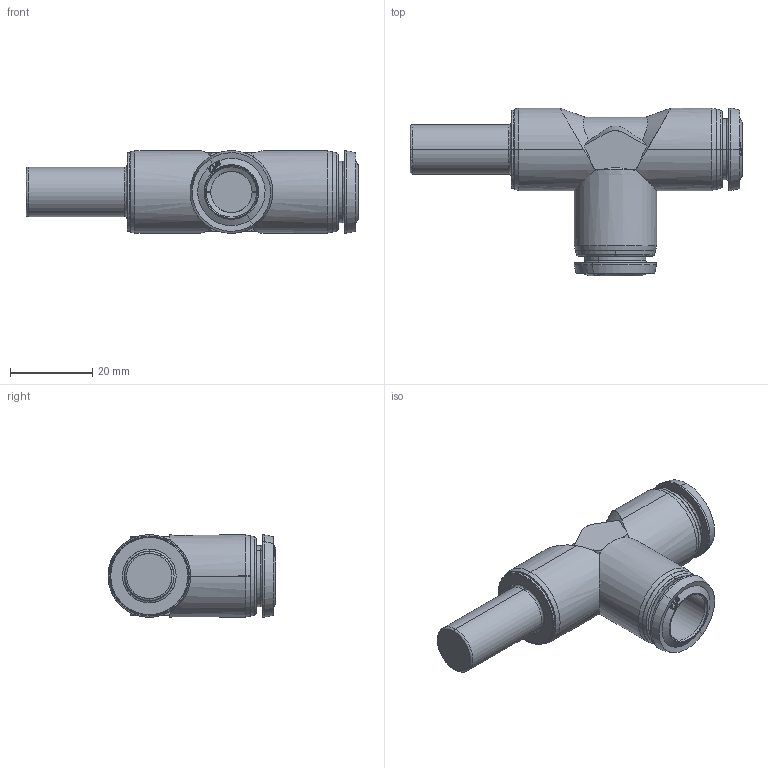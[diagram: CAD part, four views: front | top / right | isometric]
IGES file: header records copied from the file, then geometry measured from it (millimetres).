
Start section: SolidWorks IGES file using analytic representation for surfaces
Global section: file name: \\192.168.0.114\Utecnico\Disegni\Disegni Esecutivi\SERIE 55000\ASSIEMI_55000\55235\IGES e STEP\5523500007A.IGS; native system: SolidWorks 2020; preprocessor: SolidWorks 2020; author: CAD13; date: 250905.144829; units: millimetre
Bounding box: 80.5 x 40.7 x 20 mm (x, y, z)
Surface area: 8711.2 mm2 (no closed solid volume)
Topology: 0 solids, 0 shells, 200 faces, 2348 edges, 2348 vertices
Faces by surface type: bspline 124, revolution 76
